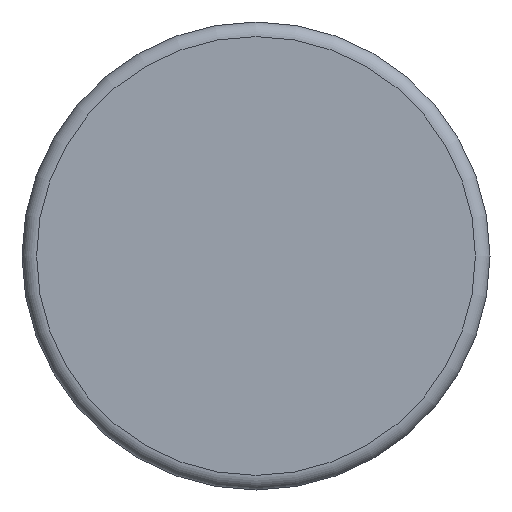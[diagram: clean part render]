
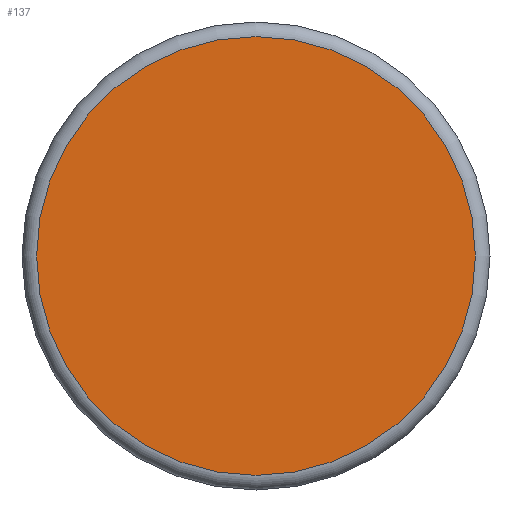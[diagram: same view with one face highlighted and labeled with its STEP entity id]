
A CAD part, front view. The second image highlights one B-rep face of the part: STEP entity #137.
In plain terms, the highlighted planar face has unit normal (0, -1, 0).
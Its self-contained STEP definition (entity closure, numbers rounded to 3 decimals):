
#137 = ADVANCED_FACE( '', ( #279 ), #280, .F. );
#279 = FACE_OUTER_BOUND( '', #461, .T. );
#280 = PLANE( '', #462 );
#461 = EDGE_LOOP( '', ( #635 ) );
#462 = AXIS2_PLACEMENT_3D( '', #636, #637, #638 );
#635 = ORIENTED_EDGE( '', *, *, #1011, .T. );
#636 = CARTESIAN_POINT( '', ( 15., 0., 0. ) );
#637 = DIRECTION( '', ( 0., 1., 0. ) );
#638 = DIRECTION( '', ( 0., 0., 1. ) );
#1011 = EDGE_CURVE( '', #1154, #1154, #1155, .T. );
#1154 = VERTEX_POINT( '', #1360 );
#1155 = CIRCLE( '', #1361, 15. );
#1360 = CARTESIAN_POINT( '', ( 0., 0., -15. ) );
#1361 = AXIS2_PLACEMENT_3D( '', #1803, #1804, #1805 );
#1803 = CARTESIAN_POINT( '', ( 0., 0., 0. ) );
#1804 = DIRECTION( '', ( 0., -1., 0. ) );
#1805 = DIRECTION( '', ( 0., 0., -1. ) );
